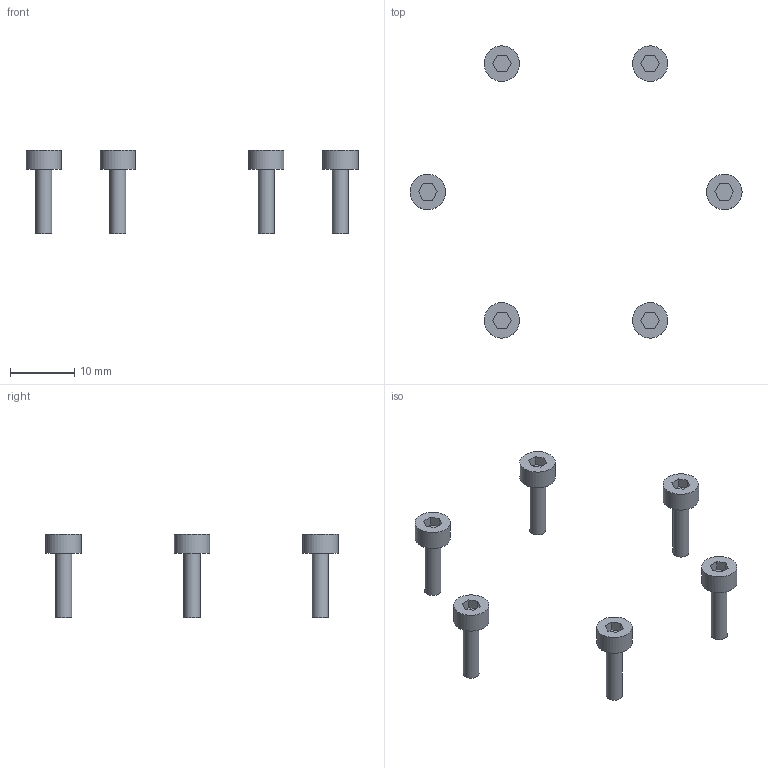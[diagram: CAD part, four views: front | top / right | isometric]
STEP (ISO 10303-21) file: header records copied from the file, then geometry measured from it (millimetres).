
FILE_DESCRIPTION(('Open CASCADE Model'),'2;1');
FILE_NAME('Open CASCADE Shape Model','2026-09-23T04:43:37',('Author'),( 'Open CASCADE'),'Open CASCADE STEP processor 7.9','Open CASCADE 7.9' ,'Unknown');
FILE_SCHEMA(('AUTOMOTIVE_DESIGN { 1 0 10303 214 1 1 1 1 }'));
Length unit declared in the file: millimetre
Products named in the file (7): Open CASCADE STEP translator 7.9 6; Open CASCADE STEP translator 7.9 6.1; Open CASCADE STEP translator 7.9 6.2; Open CASCADE STEP translator 7.9 6.3; Open CASCADE STEP translator 7.9 6.4; Open CASCADE STEP translator 7.9 6.5; Open CASCADE STEP translator 7.9 6.6
Assembly tree (6 placements, depth 2):
  Open CASCADE STEP translator 7.9 6
    Open CASCADE STEP translator 7.9 6.1
    Open CASCADE STEP translator 7.9 6.2
    Open CASCADE STEP translator 7.9 6.3
    Open CASCADE STEP translator 7.9 6.4
    Open CASCADE STEP translator 7.9 6.5
    Open CASCADE STEP translator 7.9 6.6
Bounding box: 51.5 x 45.34 x 13 mm (x, y, z)
Volume: 673.5 mm3; surface area: 1145.3 mm2
Topology: 6 solids, 6 shells, 72 faces, 144 edges, 96 vertices
Faces by surface type: plane 60, cylinder 12
Full cylindrical faces by diameter (mm): 2.5 x6, 5.5 x6
Entity records: 3832 total; most frequent: DIRECTION 614, CARTESIAN_POINT 607, LINE 384, VECTOR 384, ORIENTED_EDGE 288, PCURVE 288, DEFINITIONAL_REPRESENTATION 288, EDGE_CURVE 144
